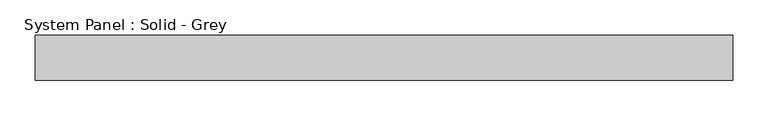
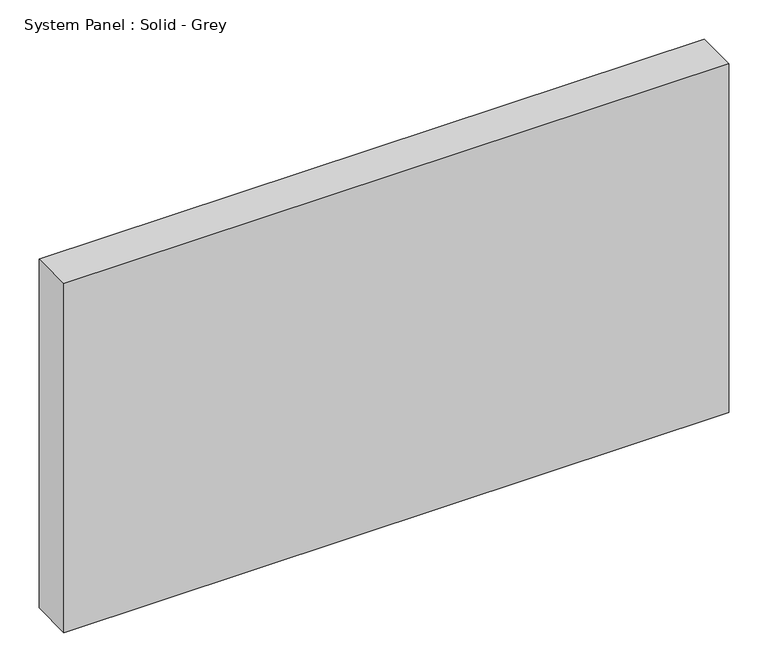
"""IFC4 building model written with IfcOpenShell, lengths in millimetres: plate geometry, System Panel : Solid - Grey."""

from ifc_helpers import new_model, si_unit, origin, origin_with_axes, place, context, project, spatial, polyline, outline, extrude, source, transform, mapped, element, save


def system_panel_solid_grey_79d213d7(model_context):
    return source(origin(), model_context, "Body", "SweptSolid", [
        extrude(outline(polyline([(492.1249999, -19.05), (-492.1249999, -19.05), (-492.1249999, 44.45), (492.1249999, 44.45), (492.1249999, -19.05)])), origin_with_axes(), (0.0, 0.0, 1.0), 546.1),
    ])


if __name__ == "__main__":
    model = new_model("IFC4")
    model_context = context("Model", 3, world=origin())
    ifc_project = project(units=[si_unit("LENGTHUNIT", "METRE", prefix="MILLI")], contexts=[model_context])
    site = spatial("IfcSite", under=ifc_project)
    building = spatial("IfcBuilding", under=site)
    placement = place(None, origin())
    system_panel_solid_grey_shape = system_panel_solid_grey_79d213d7(model_context)
    element("IfcPlate", 1, ObjectType="System Panel : Solid - Grey", at=placement, inside=building, context=model_context, shape_type="MappedRepresentation", body=[
        mapped(system_panel_solid_grey_shape, transform((0.0, 0.0, 0.0), x_axis=(1.0, 0.0, 0.0), y_axis=(0.0, 1.0, 0.0), z_axis=(0.0, 0.0, 1.0))),
    ])
    save(model, "model.ifc")
